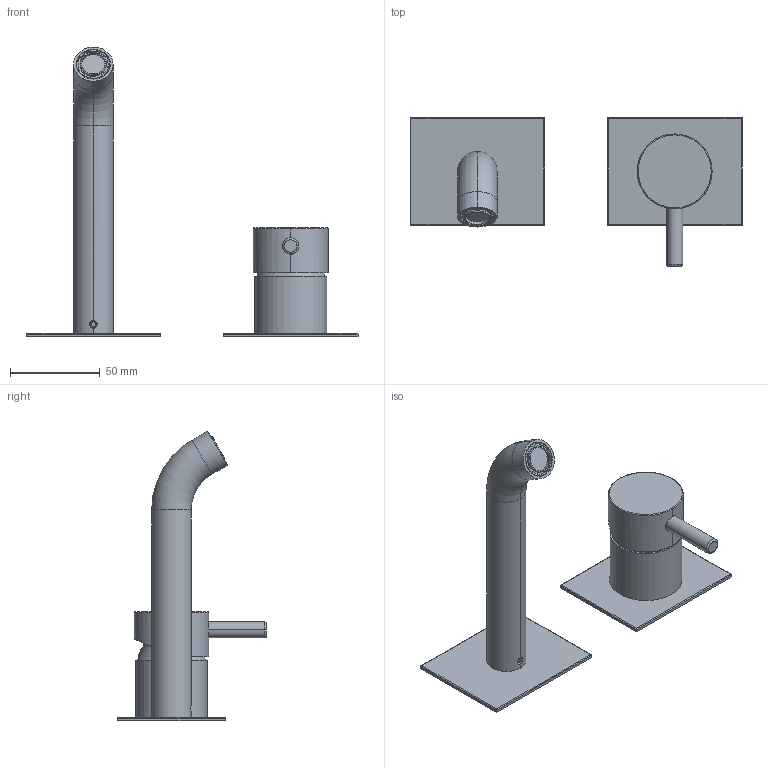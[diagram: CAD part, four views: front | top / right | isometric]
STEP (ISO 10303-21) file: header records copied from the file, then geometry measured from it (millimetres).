
FILE_DESCRIPTION((''),'2;1');
FILE_NAME('12549B_SW0001','2024-03-19T15:44:27',('carloff'),(''),'CREO PARAMETRIC BY PTC INC, 2022014','CREO PARAMETRIC BY PTC INC, 2022014','');
FILE_SCHEMA(('CONFIG_CONTROL_DESIGN'));
Products named in the file (1): 12549B_SW0001
Bounding box: 185 x 82.9 x 161.53 mm (x, y, z)
Volume: 96984.4 mm3; surface area: 86990.8 mm2
Topology: 5 solids, 5 shells, 915 faces, 2595 edges, 1699 vertices
Faces by surface type: cylinder 352, plane 337, torus 86, cone 78, bspline 50, sphere 12
Entity records: 59994 total; most frequent: CARTESIAN_POINT 36485, ORIENTED_EDGE 5182, DIRECTION 4671, EDGE_CURVE 2591, AXIS2_PLACEMENT_3D 1742, VERTEX_POINT 1699, VECTOR 1187, LINE 1187
